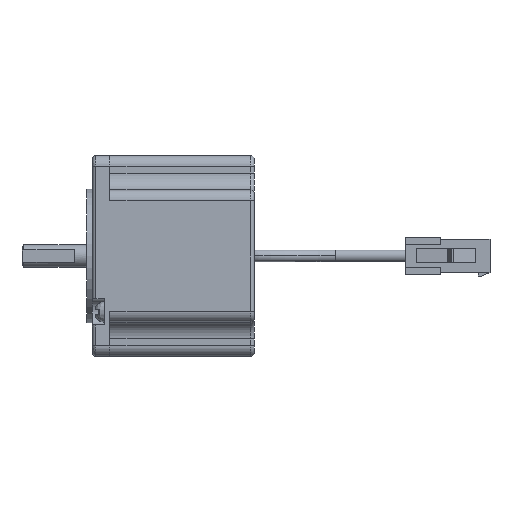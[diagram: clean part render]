
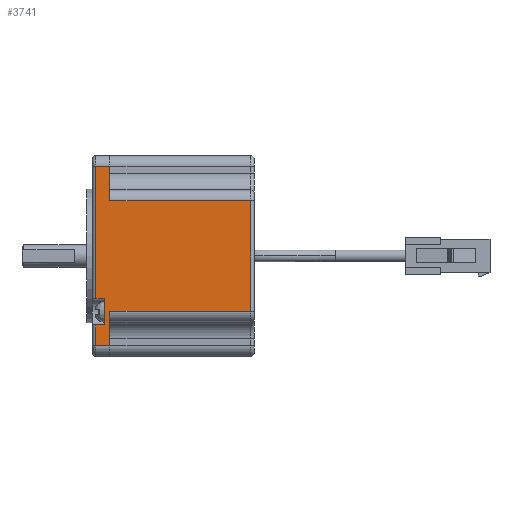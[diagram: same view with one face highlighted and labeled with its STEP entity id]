
A CAD part, front view. The second image highlights one B-rep face of the part: STEP entity #3741.
In plain terms, the highlighted planar face has unit normal (0, -1, 0) as drawn and (0, 1, 0) by its records, which use the part's own axes.
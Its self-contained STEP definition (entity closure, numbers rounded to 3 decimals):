
#33 = EDGE_CURVE ( 'NONE', #4985, #5392, #5157, .T. ) ;
#57 = EDGE_CURVE ( 'NONE', #8763, #2581, #6380, .T. ) ;
#150 = ORIENTED_EDGE ( 'NONE', *, *, #57, .T. ) ;
#192 = PLANE ( 'NONE',  #5737 ) ;
#233 = VECTOR ( 'NONE', #6615, 1000. ) ;
#237 = VECTOR ( 'NONE', #7256, 1000. ) ;
#298 = FACE_OUTER_BOUND ( 'NONE', #6059, .T. ) ;
#469 = LINE ( 'NONE', #5890, #233 ) ;
#470 = VECTOR ( 'NONE', #7240, 1000. ) ;
#661 = VERTEX_POINT ( 'NONE', #8029 ) ;
#826 = VECTOR ( 'NONE', #5966, 1000. ) ;
#937 = VECTOR ( 'NONE', #8416, 1000. ) ;
#992 = VECTOR ( 'NONE', #1880, 1000. ) ;
#1059 = LINE ( 'NONE', #7328, #4481 ) ;
#1173 = EDGE_CURVE ( 'NONE', #2179, #4985, #6529, .T. ) ;
#1694 = ORIENTED_EDGE ( 'NONE', *, *, #7724, .T. ) ;
#1815 = VERTEX_POINT ( 'NONE', #6171 ) ;
#1880 = DIRECTION ( 'NONE',  ( 0., 0., -1. ) ) ;
#1896 = VERTEX_POINT ( 'NONE', #2884 ) ;
#1913 = VECTOR ( 'NONE', #4960, 1000. ) ;
#2103 = CARTESIAN_POINT ( 'NONE',  ( 11.811, -21.243, 0. ) ) ;
#2179 = VERTEX_POINT ( 'NONE', #9194 ) ;
#2265 = LINE ( 'NONE', #7423, #237 ) ;
#2408 = CARTESIAN_POINT ( 'NONE',  ( 17.711, -21.243, 0. ) ) ;
#2508 = LINE ( 'NONE', #8653, #4182 ) ;
#2537 = CARTESIAN_POINT ( 'NONE',  ( 11.811, -21.243, 43.5 ) ) ;
#2581 = VERTEX_POINT ( 'NONE', #7026 ) ;
#2644 = CARTESIAN_POINT ( 'NONE',  ( 4.411, -21.243, 46. ) ) ;
#2689 = CARTESIAN_POINT ( 'NONE',  ( 20.711, -21.243, 43.5 ) ) ;
#2883 = ORIENTED_EDGE ( 'NONE', *, *, #33, .T. ) ;
#2884 = CARTESIAN_POINT ( 'NONE',  ( -33.289, -21.243, 46. ) ) ;
#2911 = DIRECTION ( 'NONE',  ( 0., 0., 1. ) ) ;
#3067 = VECTOR ( 'NONE', #6112, 1000. ) ;
#3639 = LINE ( 'NONE', #7137, #5718 ) ;
#3741 = ADVANCED_FACE ( 'NONE', ( #298 ), #192, .T. ) ;
#3774 = CARTESIAN_POINT ( 'NONE',  ( 7.981, -21.243, 42. ) ) ;
#4182 = VECTOR ( 'NONE', #5189, 1000. ) ;
#4183 = LINE ( 'NONE', #7344, #470 ) ;
#4481 = VECTOR ( 'NONE', #8019, 1000. ) ;
#4521 = CARTESIAN_POINT ( 'NONE',  ( 20.711, -21.243, 0. ) ) ;
#4960 = DIRECTION ( 'NONE',  ( 0., 0., 1. ) ) ;
#4985 = VERTEX_POINT ( 'NONE', #7544 ) ;
#4997 = EDGE_CURVE ( 'NONE', #661, #5392, #2265, .T. ) ;
#5011 = EDGE_CURVE ( 'NONE', #2581, #1815, #4183, .T. ) ;
#5037 = VECTOR ( 'NONE', #6226, 1000. ) ;
#5157 = LINE ( 'NONE', #6121, #3067 ) ;
#5189 = DIRECTION ( 'NONE',  ( 1., 0., 0. ) ) ;
#5250 = ORIENTED_EDGE ( 'NONE', *, *, #1173, .T. ) ;
#5392 = VERTEX_POINT ( 'NONE', #3774 ) ;
#5448 = ORIENTED_EDGE ( 'NONE', *, *, #7331, .T. ) ;
#5530 = VERTEX_POINT ( 'NONE', #2644 ) ;
#5560 = ORIENTED_EDGE ( 'NONE', *, *, #7089, .T. ) ;
#5598 = CARTESIAN_POINT ( 'NONE',  ( -23.559, -21.243, 0. ) ) ;
#5718 = VECTOR ( 'NONE', #2911, 1000. ) ;
#5730 = ORIENTED_EDGE ( 'NONE', *, *, #4997, .F. ) ;
#5737 = AXIS2_PLACEMENT_3D ( 'NONE', #4521, #8950, #8844 ) ;
#5890 = CARTESIAN_POINT ( 'NONE',  ( 20.711, -21.243, 2. ) ) ;
#5966 = DIRECTION ( 'NONE',  ( 0., 0., 1. ) ) ;
#6011 = CARTESIAN_POINT ( 'NONE',  ( 4.411, -21.243, 43.5 ) ) ;
#6059 = EDGE_LOOP ( 'NONE', ( #5730, #7950, #150, #8012, #7035, #1694, #7074, #8079, #5560, #5448, #5250, #2883 ) ) ;
#6110 = CARTESIAN_POINT ( 'NONE',  ( 11.811, -21.243, 46. ) ) ;
#6112 = DIRECTION ( 'NONE',  ( -1., 0., 0. ) ) ;
#6121 = CARTESIAN_POINT ( 'NONE',  ( 20.711, -21.243, 42. ) ) ;
#6171 = CARTESIAN_POINT ( 'NONE',  ( -33.289, -21.243, 42. ) ) ;
#6226 = DIRECTION ( 'NONE',  ( 1., 0., 0. ) ) ;
#6269 = VERTEX_POINT ( 'NONE', #2537 ) ;
#6332 = CARTESIAN_POINT ( 'NONE',  ( 20.711, -21.243, 46. ) ) ;
#6380 = LINE ( 'NONE', #5598, #826 ) ;
#6405 = EDGE_CURVE ( 'NONE', #9004, #6269, #8727, .T. ) ;
#6529 = LINE ( 'NONE', #2408, #992 ) ;
#6615 = DIRECTION ( 'NONE',  ( -1., 0., 0. ) ) ;
#6824 = VERTEX_POINT ( 'NONE', #6110 ) ;
#7026 = CARTESIAN_POINT ( 'NONE',  ( -23.559, -21.243, 42. ) ) ;
#7035 = ORIENTED_EDGE ( 'NONE', *, *, #7147, .T. ) ;
#7074 = ORIENTED_EDGE ( 'NONE', *, *, #8010, .T. ) ;
#7089 = EDGE_CURVE ( 'NONE', #6269, #6824, #7790, .T. ) ;
#7137 = CARTESIAN_POINT ( 'NONE',  ( -33.289, -21.243, 0. ) ) ;
#7147 = EDGE_CURVE ( 'NONE', #1815, #1896, #3639, .T. ) ;
#7240 = DIRECTION ( 'NONE',  ( -1., 0., 0. ) ) ;
#7256 = DIRECTION ( 'NONE',  ( 0., 0., 1. ) ) ;
#7328 = CARTESIAN_POINT ( 'NONE',  ( 4.411, -21.243, 0. ) ) ;
#7331 = EDGE_CURVE ( 'NONE', #6824, #2179, #2508, .T. ) ;
#7341 = EDGE_CURVE ( 'NONE', #661, #8763, #469, .T. ) ;
#7344 = CARTESIAN_POINT ( 'NONE',  ( 20.711, -21.243, 42. ) ) ;
#7423 = CARTESIAN_POINT ( 'NONE',  ( 7.981, -21.243, 42. ) ) ;
#7544 = CARTESIAN_POINT ( 'NONE',  ( 17.711, -21.243, 42. ) ) ;
#7724 = EDGE_CURVE ( 'NONE', #1896, #5530, #8528, .T. ) ;
#7790 = LINE ( 'NONE', #2103, #1913 ) ;
#7950 = ORIENTED_EDGE ( 'NONE', *, *, #7341, .T. ) ;
#8010 = EDGE_CURVE ( 'NONE', #5530, #9004, #1059, .T. ) ;
#8012 = ORIENTED_EDGE ( 'NONE', *, *, #5011, .T. ) ;
#8019 = DIRECTION ( 'NONE',  ( 0., 0., -1. ) ) ;
#8029 = CARTESIAN_POINT ( 'NONE',  ( 7.981, -21.243, 2. ) ) ;
#8079 = ORIENTED_EDGE ( 'NONE', *, *, #6405, .T. ) ;
#8416 = DIRECTION ( 'NONE',  ( 1., 0., 0. ) ) ;
#8528 = LINE ( 'NONE', #6332, #937 ) ;
#8653 = CARTESIAN_POINT ( 'NONE',  ( 20.711, -21.243, 46. ) ) ;
#8727 = LINE ( 'NONE', #2689, #5037 ) ;
#8763 = VERTEX_POINT ( 'NONE', #9145 ) ;
#8844 = DIRECTION ( 'NONE',  ( 0., 0., 1. ) ) ;
#8950 = DIRECTION ( 'NONE',  ( 0., 1., 0. ) ) ;
#9004 = VERTEX_POINT ( 'NONE', #6011 ) ;
#9145 = CARTESIAN_POINT ( 'NONE',  ( -23.559, -21.243, 2. ) ) ;
#9194 = CARTESIAN_POINT ( 'NONE',  ( 17.711, -21.243, 46. ) ) ;
